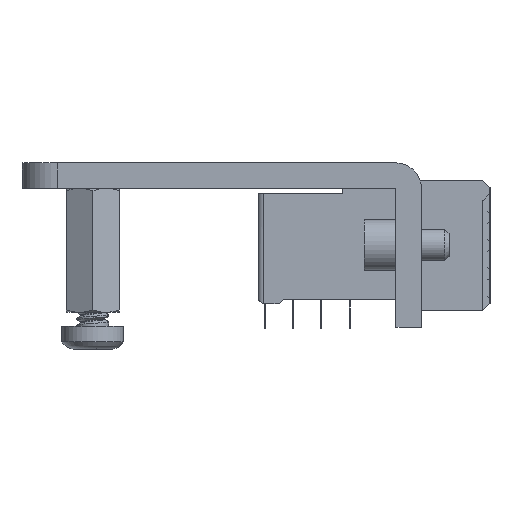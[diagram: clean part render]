
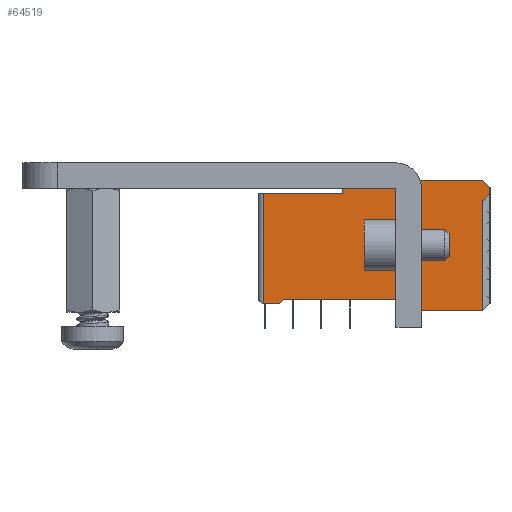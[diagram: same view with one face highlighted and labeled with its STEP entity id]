
A CAD part, left-side view. The second image highlights one B-rep face of the part: STEP entity #64519.
In plain terms, the highlighted planar face has unit normal (-1, 0, 0).
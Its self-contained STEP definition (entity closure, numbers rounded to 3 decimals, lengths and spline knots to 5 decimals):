
#2405=PLANE('',#68237);
#5777=FACE_OUTER_BOUND('',#9282,.T.);
#9282=EDGE_LOOP('',(#46774,#46775,#46776,#46777,#46778,#46779,#46780,#46781,
#46782,#46783,#46784,#46785,#46786,#46787,#46788,#46789,#46790,#46791));
#12961=LINE('',#89588,#21372);
#12965=LINE('',#89596,#21376);
#12967=LINE('',#89601,#21378);
#12971=LINE('',#89610,#21382);
#12981=LINE('',#89633,#21392);
#13387=LINE('',#90444,#21798);
#13390=LINE('',#90450,#21801);
#13404=LINE('',#90477,#21815);
#13407=LINE('',#90484,#21818);
#13409=LINE('',#90488,#21820);
#13410=LINE('',#90489,#21821);
#13411=LINE('',#90491,#21822);
#13412=LINE('',#90493,#21823);
#13413=LINE('',#90494,#21824);
#13414=LINE('',#90496,#21825);
#13415=LINE('',#90498,#21826);
#13416=LINE('',#90500,#21827);
#13417=LINE('',#90501,#21828);
#21372=VECTOR('',#72742,0.3937);
#21376=VECTOR('',#72748,0.3937);
#21378=VECTOR('',#72752,0.09724);
#21382=VECTOR('',#72758,0.3937);
#21392=VECTOR('',#72776,0.3937);
#21798=VECTOR('',#73184,0.3937);
#21801=VECTOR('',#73189,0.3937);
#21815=VECTOR('',#73209,0.0252);
#21818=VECTOR('',#73216,0.45984);
#21820=VECTOR('',#73220,0.05748);
#21821=VECTOR('',#73221,0.0252);
#21822=VECTOR('',#73222,0.04567);
#21823=VECTOR('',#73223,0.27913);
#21824=VECTOR('',#73224,0.15512);
#21825=VECTOR('',#73225,0.02116);
#21826=VECTOR('',#73226,0.43898);
#21827=VECTOR('',#73227,0.01496);
#21828=VECTOR('',#73228,0.26535);
#30503=VERTEX_POINT('',#89586);
#30504=VERTEX_POINT('',#89587);
#30507=VERTEX_POINT('',#89595);
#30508=VERTEX_POINT('',#89599);
#30509=VERTEX_POINT('',#89600);
#30512=VERTEX_POINT('',#89608);
#30513=VERTEX_POINT('',#89609);
#30522=VERTEX_POINT('',#89632);
#30926=VERTEX_POINT('',#90443);
#30928=VERTEX_POINT('',#90449);
#30938=VERTEX_POINT('',#90475);
#30940=VERTEX_POINT('',#90483);
#30941=VERTEX_POINT('',#90487);
#30942=VERTEX_POINT('',#90490);
#30943=VERTEX_POINT('',#90492);
#30944=VERTEX_POINT('',#90495);
#30945=VERTEX_POINT('',#90497);
#30946=VERTEX_POINT('',#90499);
#36677=EDGE_CURVE('',#30503,#30504,#12961,.T.);
#36681=EDGE_CURVE('',#30504,#30507,#12965,.T.);
#36683=EDGE_CURVE('',#30508,#30509,#12967,.T.);
#36687=EDGE_CURVE('',#30512,#30513,#12971,.T.);
#36698=EDGE_CURVE('',#30522,#30503,#12981,.T.);
#37104=EDGE_CURVE('',#30926,#30522,#13387,.T.);
#37107=EDGE_CURVE('',#30928,#30926,#13390,.T.);
#37121=EDGE_CURVE('',#30938,#30928,#13404,.T.);
#37124=EDGE_CURVE('',#30940,#30507,#13407,.T.);
#37126=EDGE_CURVE('',#30941,#30938,#13409,.T.);
#37127=EDGE_CURVE('',#30509,#30941,#13410,.T.);
#37128=EDGE_CURVE('',#30942,#30508,#13411,.T.);
#37129=EDGE_CURVE('',#30943,#30942,#13412,.T.);
#37130=EDGE_CURVE('',#30943,#30513,#13413,.T.);
#37131=EDGE_CURVE('',#30512,#30944,#13414,.T.);
#37132=EDGE_CURVE('',#30945,#30944,#13415,.T.);
#37133=EDGE_CURVE('',#30945,#30946,#13416,.T.);
#37134=EDGE_CURVE('',#30940,#30946,#13417,.T.);
#46774=ORIENTED_EDGE('',*,*,#36681,.F.);
#46775=ORIENTED_EDGE('',*,*,#36677,.F.);
#46776=ORIENTED_EDGE('',*,*,#36698,.F.);
#46777=ORIENTED_EDGE('',*,*,#37104,.F.);
#46778=ORIENTED_EDGE('',*,*,#37107,.F.);
#46779=ORIENTED_EDGE('',*,*,#37121,.F.);
#46780=ORIENTED_EDGE('',*,*,#37126,.F.);
#46781=ORIENTED_EDGE('',*,*,#37127,.F.);
#46782=ORIENTED_EDGE('',*,*,#36683,.F.);
#46783=ORIENTED_EDGE('',*,*,#37128,.F.);
#46784=ORIENTED_EDGE('',*,*,#37129,.F.);
#46785=ORIENTED_EDGE('',*,*,#37130,.T.);
#46786=ORIENTED_EDGE('',*,*,#36687,.F.);
#46787=ORIENTED_EDGE('',*,*,#37131,.T.);
#46788=ORIENTED_EDGE('',*,*,#37132,.F.);
#46789=ORIENTED_EDGE('',*,*,#37133,.T.);
#46790=ORIENTED_EDGE('',*,*,#37134,.F.);
#46791=ORIENTED_EDGE('',*,*,#37124,.T.);
#64519=ADVANCED_FACE('',(#5777),#2405,.F.);
#68237=AXIS2_PLACEMENT_3D('',#90486,#73218,#73219);
#72742=DIRECTION('',(0.,-0.707,-0.707));
#72748=DIRECTION('',(0.,0.,-1.));
#72752=DIRECTION('',(0.,0.,1.));
#72758=DIRECTION('',(0.,0.,-1.));
#72776=DIRECTION('',(0.,-1.,0.));
#73184=DIRECTION('',(0.,-0.707,0.707));
#73189=DIRECTION('',(0.,0.,1.));
#73209=DIRECTION('',(0.,1.,0.));
#73216=DIRECTION('',(0.,1.,0.));
#73218=DIRECTION('center_axis',(1.,0.,0.));
#73219=DIRECTION('ref_axis',(0.,-1.,0.));
#73220=DIRECTION('',(0.,0.,1.));
#73221=DIRECTION('',(0.,-1.,0.));
#73222=DIRECTION('',(0.,1.,0.));
#73223=DIRECTION('',(0.,0.,1.));
#73224=DIRECTION('',(0.,-1.,0.));
#73225=DIRECTION('',(0.,0.707,0.707));
#73226=DIRECTION('',(0.,0.,-1.));
#73227=DIRECTION('',(0.,-1.,0.));
#73228=DIRECTION('',(0.,0.,-1.));
#89586=CARTESIAN_POINT('',(-1.262,0.41354,0.));
#89587=CARTESIAN_POINT('',(-1.262,0.39004,-0.0235));
#89588=CARTESIAN_POINT('',(-1.262,0.24679,-0.16675));
#89595=CARTESIAN_POINT('',(-1.262,0.39004,-0.0248));
#89596=CARTESIAN_POINT('',(-1.262,0.39004,-0.21262));
#89599=CARTESIAN_POINT('',(-1.262,0.45984,-0.52008));
#89600=CARTESIAN_POINT('',(-1.262,0.45984,-0.3252));
#89601=CARTESIAN_POINT('',(-1.262,0.45984,-0.52008));
#89608=CARTESIAN_POINT('',(-1.262,0.02402,-0.74409));
#89609=CARTESIAN_POINT('',(-1.262,0.02402,-0.79921));
#89610=CARTESIAN_POINT('',(-1.262,0.02402,-0.57719));
#89632=CARTESIAN_POINT('',(-1.262,0.43504,0.));
#89633=CARTESIAN_POINT('',(-1.262,0.32755,0.));
#90443=CARTESIAN_POINT('',(-1.262,0.45984,-0.0248));
#90444=CARTESIAN_POINT('',(-1.262,0.48761,-0.05257));
#90449=CARTESIAN_POINT('',(-1.262,0.45984,-0.26772));
#90450=CARTESIAN_POINT('',(-1.262,0.45984,-0.47266));
#90475=CARTESIAN_POINT('',(-1.262,0.43465,-0.26772));
#90477=CARTESIAN_POINT('',(-1.262,0.43465,-0.26772));
#90483=CARTESIAN_POINT('',(-1.262,0.,-0.0248));
#90484=CARTESIAN_POINT('',(-1.262,0.,-0.0248));
#90486=CARTESIAN_POINT('Origin',(-1.262,0.,0.));
#90487=CARTESIAN_POINT('',(-1.262,0.43465,-0.3252));
#90488=CARTESIAN_POINT('',(-1.262,0.43465,-0.3252));
#90489=CARTESIAN_POINT('',(-1.262,0.45984,-0.3252));
#90490=CARTESIAN_POINT('',(-1.262,0.41417,-0.52008));
#90491=CARTESIAN_POINT('',(-1.262,0.41417,-0.52008));
#90492=CARTESIAN_POINT('',(-1.262,0.41417,-0.79921));
#90493=CARTESIAN_POINT('',(-1.262,0.41417,-0.79921));
#90494=CARTESIAN_POINT('',(-1.262,0.17913,-0.79921));
#90495=CARTESIAN_POINT('',(-1.262,0.03898,-0.72913));
#90496=CARTESIAN_POINT('',(-1.262,0.02402,-0.74409));
#90497=CARTESIAN_POINT('',(-1.262,0.03898,-0.29016));
#90498=CARTESIAN_POINT('',(-1.262,0.03898,-0.29016));
#90499=CARTESIAN_POINT('',(-1.262,0.,-0.29016));
#90500=CARTESIAN_POINT('',(-1.262,0.03898,-0.29016));
#90501=CARTESIAN_POINT('',(-1.262,0.,-0.0248));
